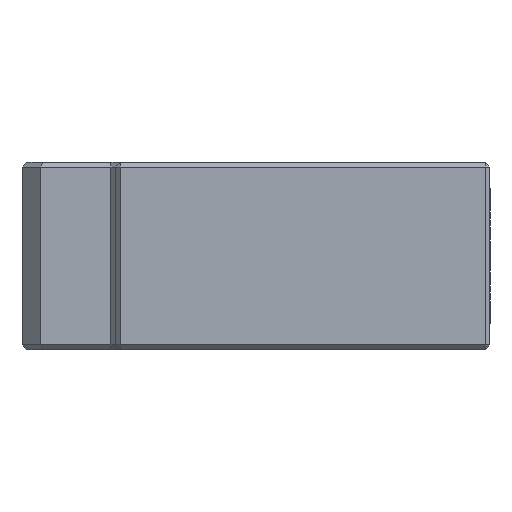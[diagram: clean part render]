
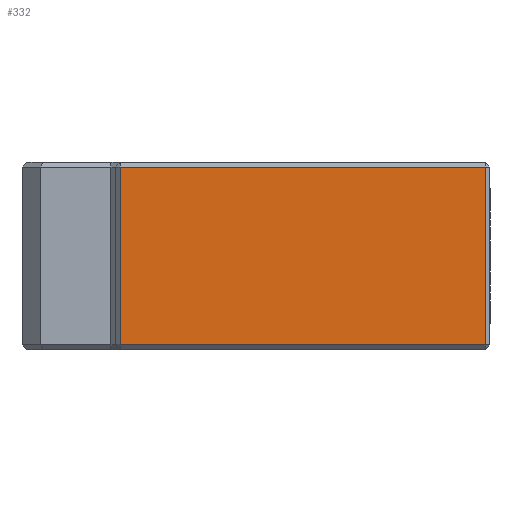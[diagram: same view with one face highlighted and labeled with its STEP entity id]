
A CAD part, left-side view. The second image highlights one B-rep face of the part: STEP entity #332.
In plain terms, the highlighted planar face has unit normal (-1, 0, 0).
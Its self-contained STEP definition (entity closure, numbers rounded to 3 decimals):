
#1 = EDGE_CURVE ( 'NONE', #2327, #2324, #3406, .T. ) ;
#16 = EDGE_CURVE ( 'NONE', #2326, #2327, #3479, .T. ) ;
#17 = EDGE_CURVE ( 'NONE', #2325, #2326, #3482, .T. ) ;
#138 = EDGE_CURVE ( 'NONE', #2324, #2325, #3200, .T. ) ;
#332 = ADVANCED_FACE ( 'NONE', ( #3999 ), #1412, .F. ) ;
#564 = VECTOR ( 'NONE', #3481, 1000. ) ;
#566 = VECTOR ( 'NONE', #3484, 1000. ) ;
#585 = VECTOR ( 'NONE', #3408, 1000. ) ;
#804 = EDGE_LOOP ( 'NONE', ( #1058, #1062, #1061, #1063 ) ) ;
#943 = VECTOR ( 'NONE', #3202, 1000. ) ;
#1058 = ORIENTED_EDGE ( 'NONE', *, *, #138, .T. ) ;
#1061 = ORIENTED_EDGE ( 'NONE', *, *, #16, .T. ) ;
#1062 = ORIENTED_EDGE ( 'NONE', *, *, #17, .T. ) ;
#1063 = ORIENTED_EDGE ( 'NONE', *, *, #1, .T. ) ;
#1412 = PLANE ( 'NONE',  #3997 ) ;
#1413 = CARTESIAN_POINT ( 'NONE',  ( -40., -30., 10. ) ) ;
#1414 = DIRECTION ( 'NONE',  ( 1., 0., 0. ) ) ;
#1415 = DIRECTION ( 'NONE',  ( 0., 0., -1. ) ) ;
#1810 = CARTESIAN_POINT ( 'NONE',  ( -40., 9.5, 9.5 ) ) ;
#1811 = CARTESIAN_POINT ( 'NONE',  ( -40., 9.5, -9.5 ) ) ;
#1812 = CARTESIAN_POINT ( 'NONE',  ( -40., -29.5, -9.5 ) ) ;
#1813 = CARTESIAN_POINT ( 'NONE',  ( -40., -29.5, 9.5 ) ) ;
#2324 = VERTEX_POINT ( 'NONE', #1810 ) ;
#2325 = VERTEX_POINT ( 'NONE', #1811 ) ;
#2326 = VERTEX_POINT ( 'NONE', #1812 ) ;
#2327 = VERTEX_POINT ( 'NONE', #1813 ) ;
#3200 = LINE ( 'NONE', #3201, #943 ) ;
#3201 = CARTESIAN_POINT ( 'NONE',  ( -40., 9.5, 10. ) ) ;
#3202 = DIRECTION ( 'NONE',  ( 0., 0., -1. ) ) ;
#3406 = LINE ( 'NONE', #3407, #585 ) ;
#3407 = CARTESIAN_POINT ( 'NONE',  ( -40., -30., 9.5 ) ) ;
#3408 = DIRECTION ( 'NONE',  ( 0., 1., 0. ) ) ;
#3479 = LINE ( 'NONE', #3480, #564 ) ;
#3480 = CARTESIAN_POINT ( 'NONE',  ( -40., -29.5, 10. ) ) ;
#3481 = DIRECTION ( 'NONE',  ( 0., 0., 1. ) ) ;
#3482 = LINE ( 'NONE', #3483, #566 ) ;
#3483 = CARTESIAN_POINT ( 'NONE',  ( -40., -30., -9.5 ) ) ;
#3484 = DIRECTION ( 'NONE',  ( 0., -1., 0. ) ) ;
#3997 = AXIS2_PLACEMENT_3D ( 'NONE', #1413, #1414, #1415 ) ;
#3999 = FACE_OUTER_BOUND ( 'NONE', #804, .T. ) ;
